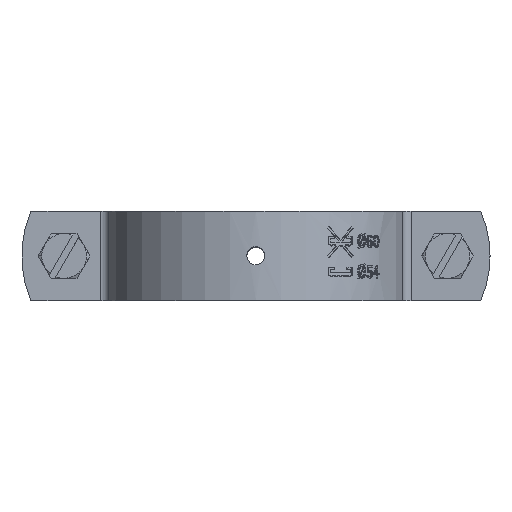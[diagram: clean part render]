
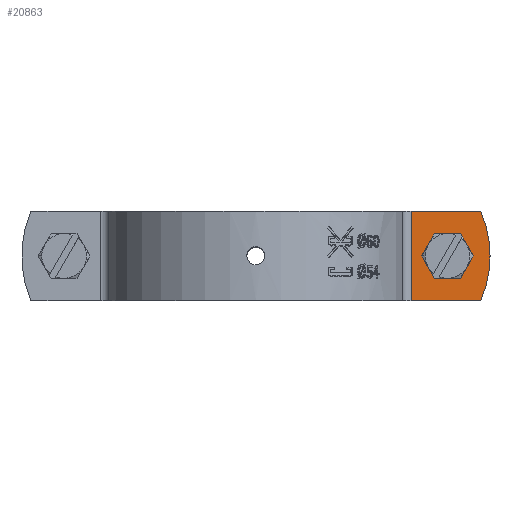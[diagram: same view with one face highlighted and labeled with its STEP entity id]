
A CAD part, top view. The second image highlights one B-rep face of the part: STEP entity #20863.
In plain terms, the highlighted planar face has unit normal (0, 0, 1).
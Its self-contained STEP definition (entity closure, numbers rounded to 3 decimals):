
#60 = ORIENTED_EDGE ( 'NONE', *, *, #9277, .F. ) ;
#271 = VECTOR ( 'NONE', #18358, 1000. ) ;
#373 = DIRECTION ( 'NONE',  ( -1., 0., 0. ) ) ;
#481 = LINE ( 'NONE', #8620, #271 ) ;
#521 = CARTESIAN_POINT ( 'NONE',  ( 50.27, 10., 5. ) ) ;
#1227 = CARTESIAN_POINT ( 'NONE',  ( 40.028, 3.5, 5. ) ) ;
#1353 = ORIENTED_EDGE ( 'NONE', *, *, #17337, .F. ) ;
#1463 = DIRECTION ( 'NONE',  ( 1., 0., 0. ) ) ;
#2043 = CARTESIAN_POINT ( 'NONE',  ( 42.857, 0., 5. ) ) ;
#3015 = VECTOR ( 'NONE', #12512, 1000. ) ;
#3269 = DIRECTION ( 'NONE',  ( -1., 0., 0. ) ) ;
#3448 = EDGE_LOOP ( 'NONE', ( #14631, #17917, #60, #21159, #7206 ) ) ;
#3837 = EDGE_CURVE ( 'NONE', #16350, #19643, #22060, .T. ) ;
#3976 = CIRCLE ( 'NONE', #23285, 25. ) ;
#4167 = AXIS2_PLACEMENT_3D ( 'NONE', #9682, #17708, #25740 ) ;
#4190 = EDGE_CURVE ( 'NONE', #12484, #8667, #10041, .T. ) ;
#4303 = DIRECTION ( 'NONE',  ( 1., 0., 0. ) ) ;
#4558 = EDGE_CURVE ( 'NONE', #10731, #6188, #25933, .T. ) ;
#5049 = EDGE_LOOP ( 'NONE', ( #15856, #12995, #25741, #24582, #1353 ) ) ;
#5642 = EDGE_CURVE ( 'NONE', #8667, #15015, #21271, .T. ) ;
#6175 = AXIS2_PLACEMENT_3D ( 'NONE', #19511, #25563, #23703 ) ;
#6188 = VERTEX_POINT ( 'NONE', #18524 ) ;
#6332 = CIRCLE ( 'NONE', #16830, 25. ) ;
#6333 = LINE ( 'NONE', #6457, #3015 ) ;
#6457 = CARTESIAN_POINT ( 'NONE',  ( 34.803, 10., 5. ) ) ;
#6734 = CARTESIAN_POINT ( 'NONE',  ( 52.357, 0., 5. ) ) ;
#7206 = ORIENTED_EDGE ( 'NONE', *, *, #24489, .T. ) ;
#7510 = CARTESIAN_POINT ( 'NONE',  ( 40.028, -3.5, 5. ) ) ;
#7745 = EDGE_CURVE ( 'NONE', #18591, #22265, #6333, .T. ) ;
#8543 = EDGE_CURVE ( 'NONE', #15015, #10731, #8965, .T. ) ;
#8620 = CARTESIAN_POINT ( 'NONE',  ( 34.803, 10., 5. ) ) ;
#8667 = VERTEX_POINT ( 'NONE', #9168 ) ;
#8965 = CIRCLE ( 'NONE', #14431, 4.5 ) ;
#9168 = CARTESIAN_POINT ( 'NONE',  ( 45.685, 3.5, 5. ) ) ;
#9274 = VECTOR ( 'NONE', #4303, 1000. ) ;
#9277 = EDGE_CURVE ( 'NONE', #22265, #14477, #6332, .T. ) ;
#9610 = VECTOR ( 'NONE', #3269, 1000. ) ;
#9682 = CARTESIAN_POINT ( 'NONE',  ( 42.857, 0., 5. ) ) ;
#10041 = CIRCLE ( 'NONE', #4167, 4.5 ) ;
#10312 = CARTESIAN_POINT ( 'NONE',  ( 34.803, -10., 5. ) ) ;
#10731 = VERTEX_POINT ( 'NONE', #11349 ) ;
#11269 = DIRECTION ( 'NONE',  ( 1., 0., 0. ) ) ;
#11349 = CARTESIAN_POINT ( 'NONE',  ( 40.028, -3.5, 5. ) ) ;
#11479 = PLANE ( 'NONE',  #6175 ) ;
#11597 = AXIS2_PLACEMENT_3D ( 'NONE', #2043, #15734, #23884 ) ;
#12484 = VERTEX_POINT ( 'NONE', #22515 ) ;
#12512 = DIRECTION ( 'NONE',  ( 1., 0., 0. ) ) ;
#12597 = CARTESIAN_POINT ( 'NONE',  ( 50.27, -10., 5. ) ) ;
#12881 = CARTESIAN_POINT ( 'NONE',  ( 27.357, 0., 5. ) ) ;
#12995 = ORIENTED_EDGE ( 'NONE', *, *, #8543, .F. ) ;
#14431 = AXIS2_PLACEMENT_3D ( 'NONE', #18385, #18254, #373 ) ;
#14477 = VERTEX_POINT ( 'NONE', #6734 ) ;
#14569 = VECTOR ( 'NONE', #1463, 1000. ) ;
#14631 = ORIENTED_EDGE ( 'NONE', *, *, #3837, .T. ) ;
#14888 = EDGE_CURVE ( 'NONE', #14477, #19643, #3976, .T. ) ;
#15015 = VERTEX_POINT ( 'NONE', #1227 ) ;
#15734 = DIRECTION ( 'NONE',  ( 0., 0., 1. ) ) ;
#15856 = ORIENTED_EDGE ( 'NONE', *, *, #4558, .F. ) ;
#16350 = VERTEX_POINT ( 'NONE', #10312 ) ;
#16830 = AXIS2_PLACEMENT_3D ( 'NONE', #16866, #23044, #24904 ) ;
#16866 = CARTESIAN_POINT ( 'NONE',  ( 27.357, 0., 5. ) ) ;
#17270 = FACE_OUTER_BOUND ( 'NONE', #3448, .T. ) ;
#17337 = EDGE_CURVE ( 'NONE', #6188, #12484, #17900, .T. ) ;
#17708 = DIRECTION ( 'NONE',  ( 0., 0., 1. ) ) ;
#17900 = CIRCLE ( 'NONE', #11597, 4.5 ) ;
#17917 = ORIENTED_EDGE ( 'NONE', *, *, #14888, .F. ) ;
#17991 = CARTESIAN_POINT ( 'NONE',  ( 34.803, -10., 5. ) ) ;
#18254 = DIRECTION ( 'NONE',  ( 0., 0., 1. ) ) ;
#18358 = DIRECTION ( 'NONE',  ( 0., -1., 0. ) ) ;
#18385 = CARTESIAN_POINT ( 'NONE',  ( 42.857, 0., 5. ) ) ;
#18524 = CARTESIAN_POINT ( 'NONE',  ( 45.685, -3.5, 5. ) ) ;
#18591 = VERTEX_POINT ( 'NONE', #22431 ) ;
#18783 = CARTESIAN_POINT ( 'NONE',  ( 45.685, 3.5, 5. ) ) ;
#19511 = CARTESIAN_POINT ( 'NONE',  ( 34.803, 10., 5. ) ) ;
#19643 = VERTEX_POINT ( 'NONE', #12597 ) ;
#19772 = FACE_BOUND ( 'NONE', #5049, .T. ) ;
#20863 = ADVANCED_FACE ( 'NONE', ( #19772, #17270 ), #11479, .F. ) ;
#21159 = ORIENTED_EDGE ( 'NONE', *, *, #7745, .F. ) ;
#21263 = DIRECTION ( 'NONE',  ( 0., 0., -1. ) ) ;
#21271 = LINE ( 'NONE', #18783, #9610 ) ;
#22060 = LINE ( 'NONE', #17991, #9274 ) ;
#22265 = VERTEX_POINT ( 'NONE', #521 ) ;
#22431 = CARTESIAN_POINT ( 'NONE',  ( 34.803, 10., 5. ) ) ;
#22515 = CARTESIAN_POINT ( 'NONE',  ( 47.357, 0., 5. ) ) ;
#23044 = DIRECTION ( 'NONE',  ( 0., 0., -1. ) ) ;
#23285 = AXIS2_PLACEMENT_3D ( 'NONE', #12881, #21263, #11269 ) ;
#23703 = DIRECTION ( 'NONE',  ( -1., 0., 0. ) ) ;
#23884 = DIRECTION ( 'NONE',  ( -1., 0., 0. ) ) ;
#24489 = EDGE_CURVE ( 'NONE', #18591, #16350, #481, .T. ) ;
#24582 = ORIENTED_EDGE ( 'NONE', *, *, #4190, .F. ) ;
#24904 = DIRECTION ( 'NONE',  ( 1., 0., 0. ) ) ;
#25563 = DIRECTION ( 'NONE',  ( 0., 0., -1. ) ) ;
#25740 = DIRECTION ( 'NONE',  ( -1., 0., 0. ) ) ;
#25741 = ORIENTED_EDGE ( 'NONE', *, *, #5642, .F. ) ;
#25933 = LINE ( 'NONE', #7510, #14569 ) ;
